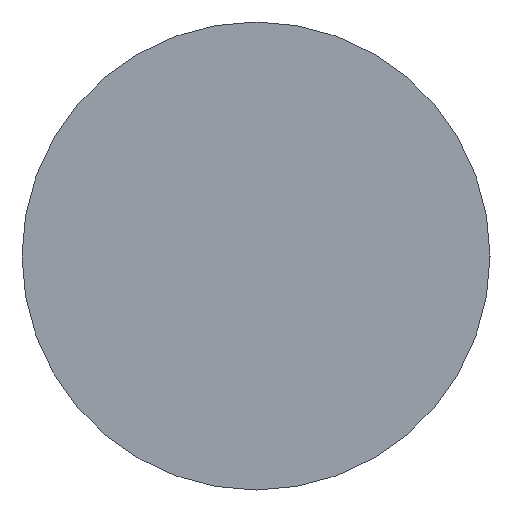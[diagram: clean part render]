
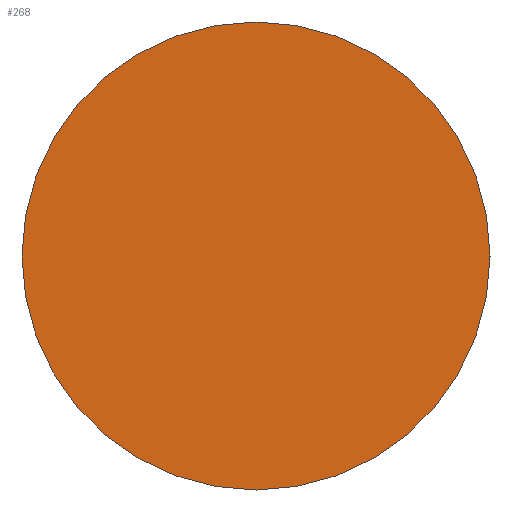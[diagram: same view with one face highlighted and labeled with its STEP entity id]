
A CAD part, left-side view. The second image highlights one B-rep face of the part: STEP entity #268.
In plain terms, the highlighted planar face has unit normal (-1, 0, 0).
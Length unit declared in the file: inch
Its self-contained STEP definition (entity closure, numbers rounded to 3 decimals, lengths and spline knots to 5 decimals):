
#48 = CARTESIAN_POINT ( 'NONE',  ( -6., 0.25, 0. ) ) ;
#53 = FACE_OUTER_BOUND ( 'NONE', #516, .T. ) ;
#73 = DIRECTION ( 'NONE',  ( 0., 0., 1. ) ) ;
#108 = ORIENTED_EDGE ( 'NONE', *, *, #401, .T. ) ;
#143 = VERTEX_POINT ( 'NONE', #605 ) ;
#164 = PLANE ( 'NONE',  #282 ) ;
#193 = DIRECTION ( 'NONE',  ( -1., 0., 0. ) ) ;
#215 = DIRECTION ( 'NONE',  ( -1., 0., 0. ) ) ;
#265 = CARTESIAN_POINT ( 'NONE',  ( -6., 0., 0. ) ) ;
#268 = ADVANCED_FACE ( 'NONE', ( #53 ), #164, .F. ) ;
#271 = DIRECTION ( 'NONE',  ( 0., 0., 1. ) ) ;
#282 = AXIS2_PLACEMENT_3D ( 'NONE', #48, #310, #497 ) ;
#310 = DIRECTION ( 'NONE',  ( 1., 0., 0. ) ) ;
#314 = AXIS2_PLACEMENT_3D ( 'NONE', #515, #193, #73 ) ;
#401 = EDGE_CURVE ( 'NONE', #143, #608, #489, .T. ) ;
#403 = CIRCLE ( 'NONE', #455, 0.25 ) ;
#455 = AXIS2_PLACEMENT_3D ( 'NONE', #265, #215, #271 ) ;
#489 = CIRCLE ( 'NONE', #314, 0.25 ) ;
#497 = DIRECTION ( 'NONE',  ( 0., 0., -1. ) ) ;
#506 = ORIENTED_EDGE ( 'NONE', *, *, #603, .T. ) ;
#515 = CARTESIAN_POINT ( 'NONE',  ( -6., 0., 0. ) ) ;
#516 = EDGE_LOOP ( 'NONE', ( #506, #108 ) ) ;
#557 = CARTESIAN_POINT ( 'NONE',  ( -6., 0., 0.25 ) ) ;
#603 = EDGE_CURVE ( 'NONE', #608, #143, #403, .T. ) ;
#605 = CARTESIAN_POINT ( 'NONE',  ( -6., 0., -0.25 ) ) ;
#608 = VERTEX_POINT ( 'NONE', #557 ) ;
